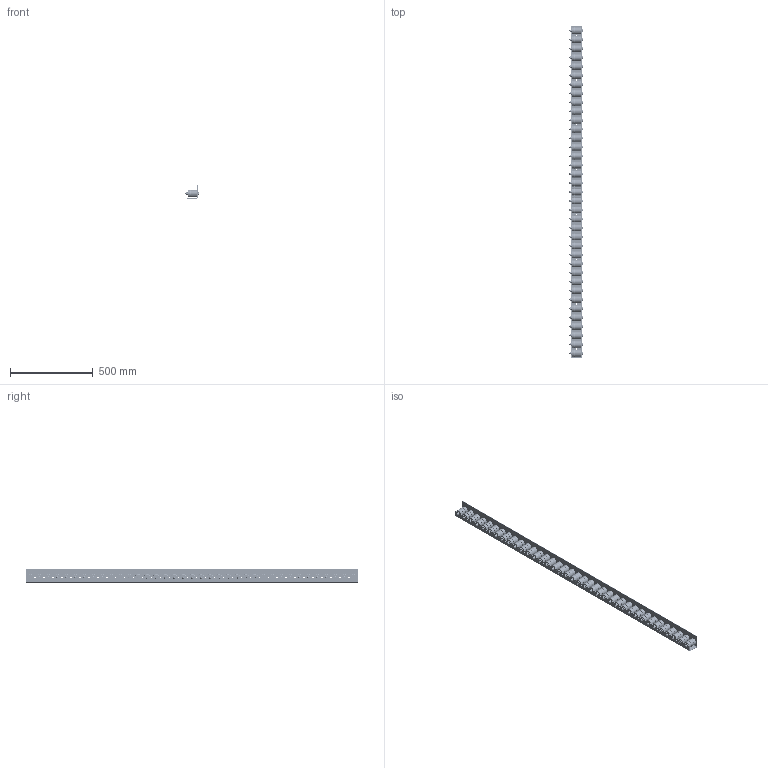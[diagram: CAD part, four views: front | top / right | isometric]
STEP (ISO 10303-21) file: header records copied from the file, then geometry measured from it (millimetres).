
FILE_DESCRIPTION( ( 'Unknown' ), '1' );
FILE_NAME( 'D:/Construktor/Listwy rolkowe 2015/Listwa T670L/Listwa T670L.stp', 'Unknown', ( 'Unknown' ), ( 'Unknown' ), 'PSStep 17.0.49', 'Unknown', ' ' );
FILE_SCHEMA( ( 'AUTOMOTIVE_DESIGN { 1 0 10303 214 1 1 1 1 }' ) );
Length unit declared in the file: millimetre
Products named in the file (9): Rolka T 610; Wewnetrzna Rolka 610; Zewnetrzna Rolka 610; Assem1; DIN_931_M8x35; DIN_931_M8x35-oa0; DIN_931_M8x35-oa1; Nut_DIN_980_M_M8_v10.50; Ceownik T670L
Assembly tree (188 placements, depth 3):
  Assem1
    DIN_931_M8x35  x35
    DIN_931_M8x35-oa0
    DIN_931_M8x35-oa1
    Nut_DIN_980_M_M8_v10.50  x37
    Ceownik T670L
    Rolka T 610  x111
      Wewnetrzna Rolka 610
      Zewnetrzna Rolka 610
Bounding box: 80.3 x 2000 x 80 mm (x, y, z)
Volume: 3532148 mm3; surface area: 1972191.1 mm2
Topology: 297 solids, 297 shells, 7309 faces, 18340 edges, 12069 vertices
Faces by surface type: plane 5042, cylinder 1342, cone 555, torus 370
Full cylindrical faces by diameter (mm): 6.466 x37, 6.647 x37, 6.697 x37, 8 x74, 8.2 x154, 8.3 x111, 8.4 x37, 11.63 x37, 12.5 x37, 14 x222, 23 x222, 28 x222, 42.3 x111
Entity records: 13766 total; most frequent: CARTESIAN_POINT 2019, DIRECTION 1996, ORIENTED_EDGE 1244, AXIS2_PLACEMENT_3D 931, EDGE_LOOP 834, EDGE_CURVE 622, VERTEX_POINT 530, FACE_OUTER_BOUND 499
